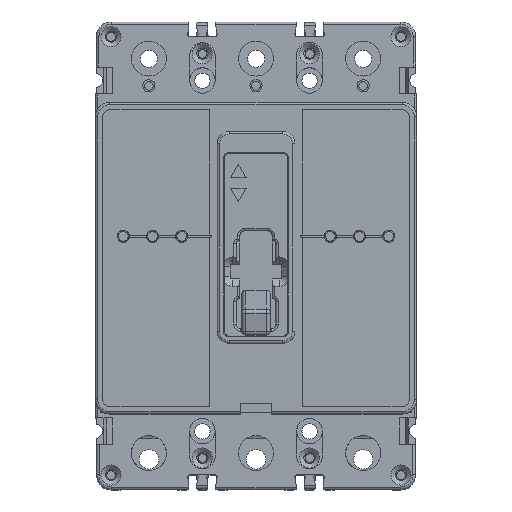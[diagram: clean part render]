
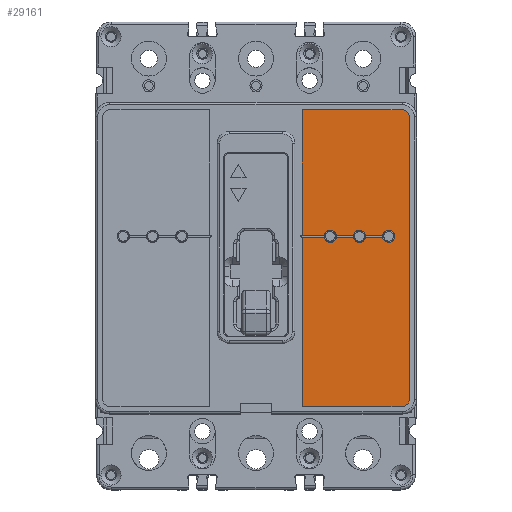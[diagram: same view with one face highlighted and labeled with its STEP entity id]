
A CAD part, top view. The second image highlights one B-rep face of the part: STEP entity #29161.
In plain terms, the highlighted planar face has unit normal (0, 0, 1).
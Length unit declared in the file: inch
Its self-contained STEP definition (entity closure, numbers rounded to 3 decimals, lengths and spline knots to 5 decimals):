
#28874=CARTESIAN_POINT('',(3.68814,3.26,3.313));
#28875=VERTEX_POINT('',#28874);
#28882=CARTESIAN_POINT('',(3.46786,3.26,3.313));
#28883=VERTEX_POINT('',#28882);
#28884=CARTESIAN_POINT('',(3.68814,3.26,3.313));
#28885=DIRECTION('',(-1.0,0.0,0.0));
#28886=VECTOR('',#28885,0.22029);
#28887=LINE('',#28884,#28886);
#28888=EDGE_CURVE('',#28875,#28883,#28887,.T.);
#28914=CARTESIAN_POINT('',(3.31314,3.26,3.313));
#28915=VERTEX_POINT('',#28914);
#28922=CARTESIAN_POINT('',(3.09286,3.26,3.313));
#28923=VERTEX_POINT('',#28922);
#28924=CARTESIAN_POINT('',(3.31314,3.26,3.313));
#28925=DIRECTION('',(-1.0,0.0,0.0));
#28926=VECTOR('',#28925,0.22029);
#28927=LINE('',#28924,#28926);
#28928=EDGE_CURVE('',#28915,#28923,#28927,.T.);
#28954=CARTESIAN_POINT('',(2.93814,3.26,3.313));
#28955=VERTEX_POINT('',#28954);
#28962=CARTESIAN_POINT('',(2.6565,3.26,3.313));
#28963=VERTEX_POINT('',#28962);
#28964=CARTESIAN_POINT('',(2.93814,3.26,3.313));
#28965=DIRECTION('',(-1.0,0.0,0.0));
#28966=VECTOR('',#28965,0.28164);
#28967=LINE('',#28964,#28966);
#28968=EDGE_CURVE('',#28955,#28963,#28967,.T.);
#28999=CARTESIAN_POINT('',(3.68814,3.24,3.313));
#29000=VERTEX_POINT('',#28999);
#29001=CARTESIAN_POINT('',(3.7655,3.25,3.313));
#29002=DIRECTION('',(0.0,0.0,1.0));
#29003=DIRECTION('',(0.0,1.0,0.0));
#29004=AXIS2_PLACEMENT_3D('',#29001,#29002,#29003);
#29005=CIRCLE('',#29004,0.078);
#29006=EDGE_CURVE('',#29000,#28875,#29005,.T.);
#29038=CARTESIAN_POINT('',(2.0625,5.25,3.313));
#29039=DIRECTION('',(0.0,0.0,1.0));
#29040=DIRECTION('',(1.0,0.0,0.0));
#29041=AXIS2_PLACEMENT_3D('',#29038,#29039,#29040);
#29042=PLANE('',#29041);
#29043=ORIENTED_EDGE('',*,*,#29006,.F.);
#29044=CARTESIAN_POINT('',(3.46786,3.24,3.313));
#29045=VERTEX_POINT('',#29044);
#29046=CARTESIAN_POINT('',(3.46786,3.24,3.313));
#29047=DIRECTION('',(1.0,0.0,0.0));
#29048=VECTOR('',#29047,0.22029);
#29049=LINE('',#29046,#29048);
#29050=EDGE_CURVE('',#29045,#29000,#29049,.T.);
#29051=ORIENTED_EDGE('',*,*,#29050,.F.);
#29052=CARTESIAN_POINT('',(3.31314,3.24,3.313));
#29053=VERTEX_POINT('',#29052);
#29054=CARTESIAN_POINT('',(3.3905,3.25,3.313));
#29055=DIRECTION('',(0.0,0.0,1.0));
#29056=DIRECTION('',(-0.992,-0.128,0.0));
#29057=AXIS2_PLACEMENT_3D('',#29054,#29055,#29056);
#29058=CIRCLE('',#29057,0.078);
#29059=EDGE_CURVE('',#29053,#29045,#29058,.T.);
#29060=ORIENTED_EDGE('',*,*,#29059,.F.);
#29061=CARTESIAN_POINT('',(3.09286,3.24,3.313));
#29062=VERTEX_POINT('',#29061);
#29063=CARTESIAN_POINT('',(3.09286,3.24,3.313));
#29064=DIRECTION('',(1.0,0.0,0.0));
#29065=VECTOR('',#29064,0.22029);
#29066=LINE('',#29063,#29065);
#29067=EDGE_CURVE('',#29062,#29053,#29066,.T.);
#29068=ORIENTED_EDGE('',*,*,#29067,.F.);
#29069=CARTESIAN_POINT('',(2.93814,3.24,3.313));
#29070=VERTEX_POINT('',#29069);
#29071=CARTESIAN_POINT('',(3.0155,3.25,3.313));
#29072=DIRECTION('',(0.0,0.0,1.0));
#29073=DIRECTION('',(-0.992,-0.128,0.0));
#29074=AXIS2_PLACEMENT_3D('',#29071,#29072,#29073);
#29075=CIRCLE('',#29074,0.078);
#29076=EDGE_CURVE('',#29070,#29062,#29075,.T.);
#29077=ORIENTED_EDGE('',*,*,#29076,.F.);
#29078=CARTESIAN_POINT('',(2.6565,3.24,3.313));
#29079=VERTEX_POINT('',#29078);
#29080=CARTESIAN_POINT('',(2.6565,3.24,3.313));
#29081=DIRECTION('',(1.0,0.0,0.0));
#29082=VECTOR('',#29081,0.28164);
#29083=LINE('',#29080,#29082);
#29084=EDGE_CURVE('',#29079,#29070,#29083,.T.);
#29085=ORIENTED_EDGE('',*,*,#29084,.F.);
#29086=CARTESIAN_POINT('',(2.6565,1.063,3.313));
#29087=VERTEX_POINT('',#29086);
#29088=CARTESIAN_POINT('',(2.6565,3.24,3.313));
#29089=DIRECTION('',(0.0,-1.0,0.0));
#29090=VECTOR('',#29089,2.177);
#29091=LINE('',#29088,#29090);
#29092=EDGE_CURVE('',#29079,#29087,#29091,.T.);
#29093=ORIENTED_EDGE('',*,*,#29092,.T.);
#29094=CARTESIAN_POINT('',(3.937,1.063,3.313));
#29095=VERTEX_POINT('',#29094);
#29096=CARTESIAN_POINT('',(2.6565,1.063,3.313));
#29097=DIRECTION('',(1.0,0.0,0.0));
#29098=VECTOR('',#29097,1.2805);
#29099=LINE('',#29096,#29098);
#29100=EDGE_CURVE('',#29087,#29095,#29099,.T.);
#29101=ORIENTED_EDGE('',*,*,#29100,.T.);
#29102=CARTESIAN_POINT('',(4.031,1.157,3.313));
#29103=VERTEX_POINT('',#29102);
#29104=CARTESIAN_POINT('',(3.937,1.157,3.313));
#29105=DIRECTION('',(0.0,0.0,1.0));
#29106=DIRECTION('',(0.0,-1.0,0.0));
#29107=AXIS2_PLACEMENT_3D('',#29104,#29105,#29106);
#29108=CIRCLE('',#29107,0.094);
#29109=EDGE_CURVE('',#29095,#29103,#29108,.T.);
#29110=ORIENTED_EDGE('',*,*,#29109,.T.);
#29111=CARTESIAN_POINT('',(4.031,4.781,3.313));
#29112=VERTEX_POINT('',#29111);
#29113=CARTESIAN_POINT('',(4.031,1.157,3.313));
#29114=DIRECTION('',(0.0,1.0,0.0));
#29115=VECTOR('',#29114,3.624);
#29116=LINE('',#29113,#29115);
#29117=EDGE_CURVE('',#29103,#29112,#29116,.T.);
#29118=ORIENTED_EDGE('',*,*,#29117,.T.);
#29119=CARTESIAN_POINT('',(3.937,4.875,3.313));
#29120=VERTEX_POINT('',#29119);
#29121=CARTESIAN_POINT('',(3.937,4.781,3.313));
#29122=DIRECTION('',(0.0,0.0,1.0));
#29123=DIRECTION('',(1.0,0.0,0.0));
#29124=AXIS2_PLACEMENT_3D('',#29121,#29122,#29123);
#29125=CIRCLE('',#29124,0.094);
#29126=EDGE_CURVE('',#29112,#29120,#29125,.T.);
#29127=ORIENTED_EDGE('',*,*,#29126,.T.);
#29128=CARTESIAN_POINT('',(2.6565,4.875,3.313));
#29129=VERTEX_POINT('',#29128);
#29130=CARTESIAN_POINT('',(3.937,4.875,3.313));
#29131=DIRECTION('',(-1.0,0.0,0.0));
#29132=VECTOR('',#29131,1.2805);
#29133=LINE('',#29130,#29132);
#29134=EDGE_CURVE('',#29120,#29129,#29133,.T.);
#29135=ORIENTED_EDGE('',*,*,#29134,.T.);
#29136=CARTESIAN_POINT('',(2.6565,4.875,3.313));
#29137=DIRECTION('',(0.0,-1.0,0.0));
#29138=VECTOR('',#29137,1.615);
#29139=LINE('',#29136,#29138);
#29140=EDGE_CURVE('',#29129,#28963,#29139,.T.);
#29141=ORIENTED_EDGE('',*,*,#29140,.T.);
#29142=ORIENTED_EDGE('',*,*,#28968,.F.);
#29143=CARTESIAN_POINT('',(3.0155,3.25,3.313));
#29144=DIRECTION('',(0.0,0.0,1.0));
#29145=DIRECTION('',(0.992,0.128,0.0));
#29146=AXIS2_PLACEMENT_3D('',#29143,#29144,#29145);
#29147=CIRCLE('',#29146,0.078);
#29148=EDGE_CURVE('',#28923,#28955,#29147,.T.);
#29149=ORIENTED_EDGE('',*,*,#29148,.F.);
#29150=ORIENTED_EDGE('',*,*,#28928,.F.);
#29151=CARTESIAN_POINT('',(3.3905,3.25,3.313));
#29152=DIRECTION('',(0.0,0.0,1.0));
#29153=DIRECTION('',(0.992,0.128,0.0));
#29154=AXIS2_PLACEMENT_3D('',#29151,#29152,#29153);
#29155=CIRCLE('',#29154,0.078);
#29156=EDGE_CURVE('',#28883,#28915,#29155,.T.);
#29157=ORIENTED_EDGE('',*,*,#29156,.F.);
#29158=ORIENTED_EDGE('',*,*,#28888,.F.);
#29159=EDGE_LOOP('',(#29043,#29051,#29060,#29068,#29077,#29085,#29093,#29101,#29110,#29118,#29127,#29135,#29141,#29142,#29149,#29150,#29157,#29158));
#29160=FACE_OUTER_BOUND('',#29159,.T.);
#29161=ADVANCED_FACE('',(#29160),#29042,.T.);
